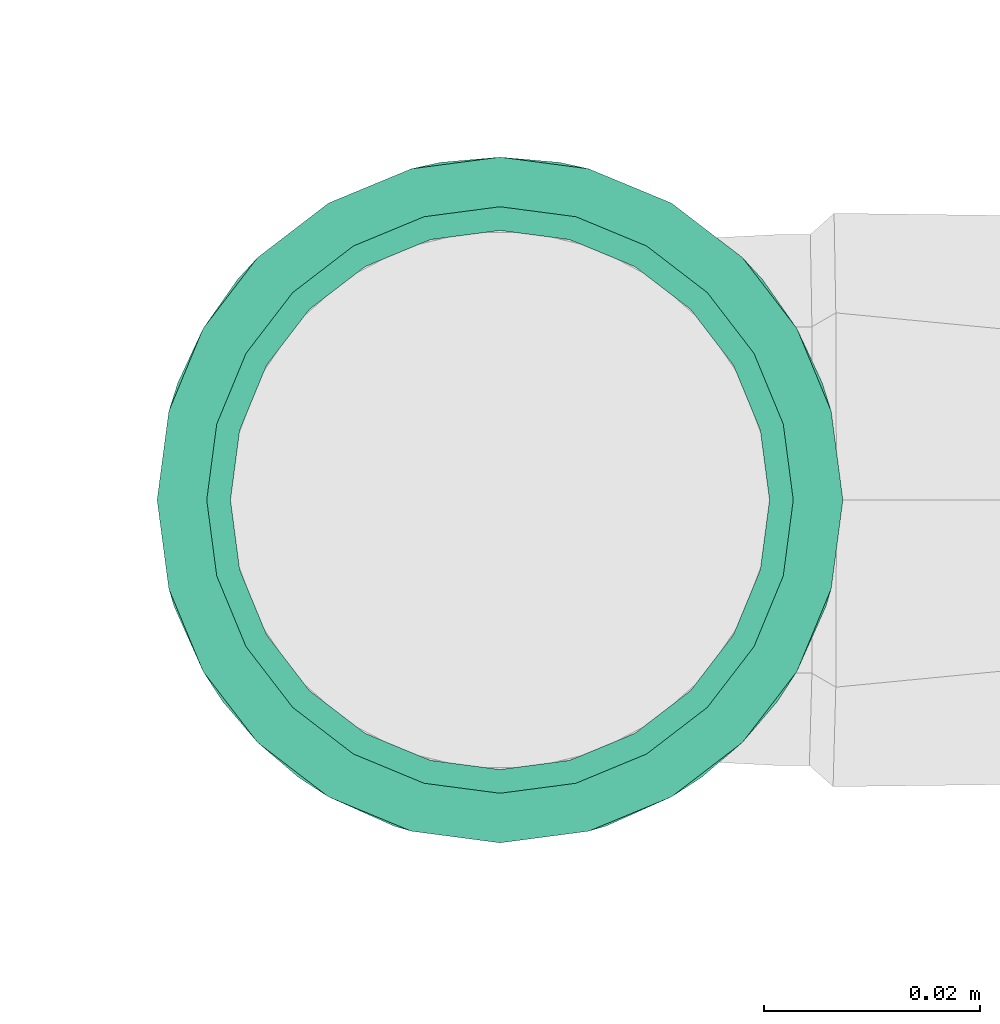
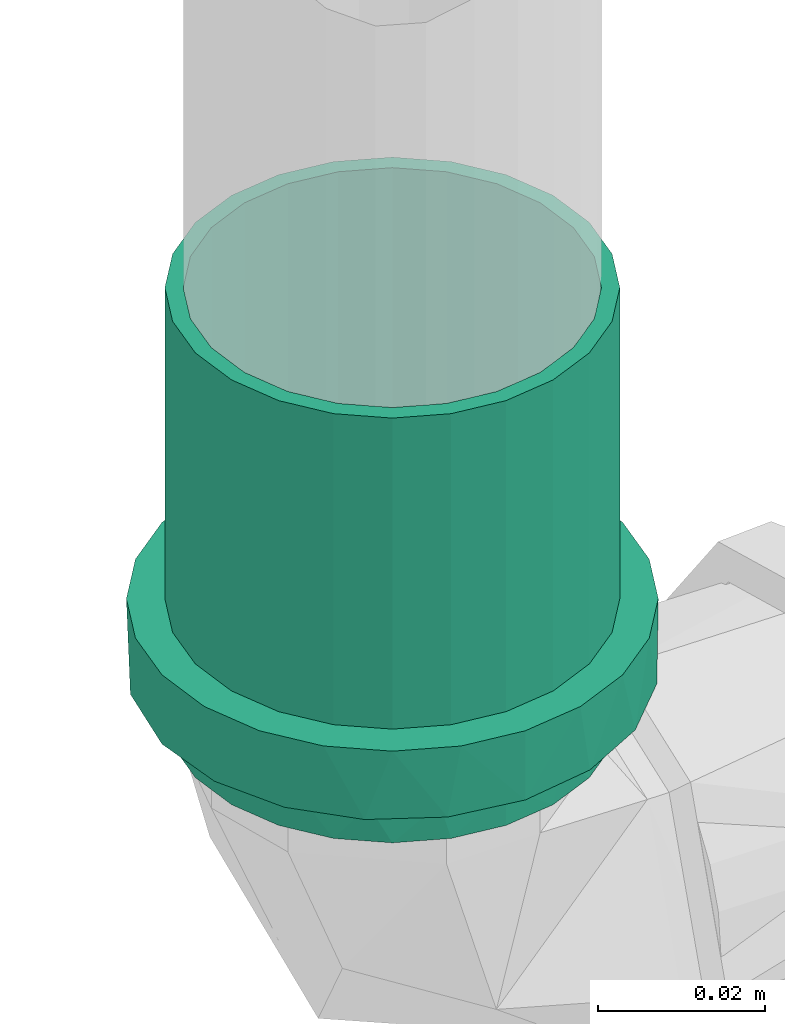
# One storey, part 203 of 589: 1 flow fitting.
"""IFC2X3 building model written with IfcOpenShell, lengths in millimetres."""

from ifc_helpers import new_model, entity, si_unit, converted_unit, derived_unit, direction, frame, origin, place, context, subcontext, project, spatial, faceted_brep, source, transform, mapped, material, type_object, type_shapes, element, save


model = new_model("IFC2X3")

# Units and contexts
model_context = context("Model", 3, precision=0.01, world=origin(), true_north=direction((6.123031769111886e-17, 1.0)))
body_context = subcontext(model_context, "Body", "Model", "MODEL_VIEW")
ifc_project = project(units=[si_unit("LENGTHUNIT", "METRE", prefix="MILLI"), si_unit("AREAUNIT", "SQUARE_METRE"), si_unit("VOLUMEUNIT", "CUBIC_METRE"), converted_unit("PLANEANGLEUNIT", "DEGREE", entity("IfcRatioMeasure", 0.017453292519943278), si_unit("PLANEANGLEUNIT", "RADIAN"), dimensions=[0, 0, 0, 0, 0, 0, 0]), si_unit("MASSUNIT", "GRAM", prefix="KILO"), derived_unit("MASSDENSITYUNIT", [(si_unit("MASSUNIT", "GRAM", prefix="KILO"), 1), (si_unit("LENGTHUNIT", "METRE"), -3)]), derived_unit("IONCONCENTRATIONUNIT", [(si_unit("MASSUNIT", "GRAM", prefix="KILO"), 1), (si_unit("LENGTHUNIT", "METRE"), -3)]), derived_unit("MOMENTOFINERTIAUNIT", [(si_unit("LENGTHUNIT", "METRE"), 4)]), si_unit("TIMEUNIT", "SECOND"), si_unit("FREQUENCYUNIT", "HERTZ"), si_unit("THERMODYNAMICTEMPERATUREUNIT", "DEGREE_CELSIUS"), derived_unit("THERMALTRANSMITTANCEUNIT", [(si_unit("MASSUNIT", "GRAM", prefix="KILO"), 1), (si_unit("THERMODYNAMICTEMPERATUREUNIT", "KELVIN"), -1), (si_unit("TIMEUNIT", "SECOND"), -3)]), derived_unit("THERMALCONDUCTANCEUNIT", [(si_unit("MASSUNIT", "GRAM", prefix="KILO"), 1), (si_unit("THERMODYNAMICTEMPERATUREUNIT", "KELVIN"), -1), (si_unit("TIMEUNIT", "SECOND"), -3), (si_unit("LENGTHUNIT", "METRE"), 1)]), derived_unit("VOLUMETRICFLOWRATEUNIT", [(si_unit("LENGTHUNIT", "METRE"), 3), (si_unit("TIMEUNIT", "SECOND"), -1)]), derived_unit("MASSFLOWRATEUNIT", [(si_unit("MASSUNIT", "GRAM", prefix="KILO"), 1), (si_unit("TIMEUNIT", "SECOND"), -1)]), derived_unit("ROTATIONALFREQUENCYUNIT", [(si_unit("TIMEUNIT", "SECOND"), -1)]), si_unit("ELECTRICCURRENTUNIT", "AMPERE"), si_unit("ELECTRICVOLTAGEUNIT", "VOLT"), si_unit("POWERUNIT", "WATT"), si_unit("FORCEUNIT", "NEWTON", prefix="KILO"), si_unit("ILLUMINANCEUNIT", "LUX"), si_unit("LUMINOUSFLUXUNIT", "LUMEN"), si_unit("LUMINOUSINTENSITYUNIT", "CANDELA"), derived_unit("USERDEFINED", [(si_unit("MASSUNIT", "GRAM", prefix="KILO"), -1), (si_unit("LENGTHUNIT", "METRE"), -2), (si_unit("TIMEUNIT", "SECOND"), 3), (si_unit("LUMINOUSFLUXUNIT", "LUMEN"), 1)]), derived_unit("USERDEFINED", [(si_unit("MASSUNIT", "GRAM", prefix="KILO"), 1), (si_unit("TIMEUNIT", "SECOND"), -3), (si_unit("LENGTHUNIT", "METRE"), 3), (si_unit("ELECTRICCURRENTUNIT", "AMPERE"), -2)]), derived_unit("SOUNDPOWERUNIT", [(si_unit("MASSUNIT", "GRAM", prefix="KILO"), 1), (si_unit("TIMEUNIT", "SECOND"), -3), (si_unit("LENGTHUNIT", "METRE"), 2)]), derived_unit("SOUNDPRESSUREUNIT", [(si_unit("MASSUNIT", "GRAM", prefix="KILO"), 1), (si_unit("LENGTHUNIT", "METRE"), -1), (si_unit("TIMEUNIT", "SECOND"), -2)]), derived_unit("LINEARVELOCITYUNIT", [(si_unit("LENGTHUNIT", "METRE"), 1), (si_unit("TIMEUNIT", "SECOND"), -1)]), si_unit("PRESSUREUNIT", "PASCAL"), derived_unit("USERDEFINED", [(si_unit("MASSUNIT", "GRAM", prefix="KILO"), 1), (si_unit("LENGTHUNIT", "METRE"), -2), (si_unit("TIMEUNIT", "SECOND"), -2)]), derived_unit("LINEARFORCEUNIT", [(si_unit("MASSUNIT", "GRAM", prefix="KILO"), 1), (si_unit("TIMEUNIT", "SECOND"), -2)]), derived_unit("PLANARFORCEUNIT", [(si_unit("MASSUNIT", "GRAM", prefix="KILO"), 1), (si_unit("LENGTHUNIT", "METRE"), -1), (si_unit("TIMEUNIT", "SECOND"), -2)]), derived_unit("SPECIFICHEATCAPACITYUNIT", [(si_unit("THERMODYNAMICTEMPERATUREUNIT", "KELVIN"), -1), (si_unit("LENGTHUNIT", "METRE"), 2), (si_unit("TIMEUNIT", "SECOND"), -2)]), derived_unit("HEATINGVALUEUNIT", [(si_unit("LENGTHUNIT", "METRE"), 2), (si_unit("TIMEUNIT", "SECOND"), -2)]), derived_unit("VAPORPERMEABILITYUNIT", [(si_unit("LENGTHUNIT", "METRE"), -1), (si_unit("TIMEUNIT", "SECOND"), 1)]), derived_unit("DYNAMICVISCOSITYUNIT", [(si_unit("MASSUNIT", "GRAM", prefix="KILO"), 1), (si_unit("TIMEUNIT", "SECOND"), -1), (si_unit("LENGTHUNIT", "METRE"), -1)]), derived_unit("THERMALEXPANSIONCOEFFICIENTUNIT", [(si_unit("THERMODYNAMICTEMPERATUREUNIT", "KELVIN"), -1)]), derived_unit("MODULUSOFELASTICITYUNIT", [(si_unit("MASSUNIT", "GRAM", prefix="KILO"), 1), (si_unit("LENGTHUNIT", "METRE"), -1), (si_unit("TIMEUNIT", "SECOND"), -2)]), derived_unit("ISOTHERMALMOISTURECAPACITYUNIT", [(si_unit("LENGTHUNIT", "METRE"), 3), (si_unit("MASSUNIT", "GRAM", prefix="KILO"), -1)]), derived_unit("MOISTUREDIFFUSIVITYUNIT", [(si_unit("TIMEUNIT", "SECOND"), -1), (si_unit("LENGTHUNIT", "METRE"), 2)])], contexts=[model_context])

# Site, building, storey
site_placement = place(None, origin())
site = spatial("IfcSite", under=ifc_project, at=site_placement, Name="Default", CompositionType="ELEMENT")
building_placement = place(site_placement, origin())
building = spatial("IfcBuilding", under=site, at=building_placement, CompositionType="ELEMENT")
storey_placement = place(building_placement, frame((0.0, 0.0, 100.0)))
storey = spatial("IfcBuildingStorey", under=building, at=storey_placement, Name="TÉRREO", CompositionType="ELEMENT", Elevation=100.0)

# Flow fitting
ifc_material = material(Name="PVC Série Normal")
pipe_fitting_type = type_object("IfcPipeFittingType", Name="PVC Esgoto_Luva Simples para Conexão_Rodrigo MEP:Standard", PredefinedType="NOTDEFINED", material=ifc_material)
shared_shape = source(origin(), body_context, "Body", "Brep", [
    faceted_brep([(16.599999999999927, -13.599999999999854, -23.555890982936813), (16.599999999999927, -22.485995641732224, -22.485995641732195), (16.599999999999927, -15.900000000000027, -27.53960784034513), (16.599999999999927, -19.233304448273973, -19.233304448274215), (16.599999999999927, -7.039878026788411, -26.273182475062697), (16.599999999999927, -27.539607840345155, -15.899999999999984), (16.599999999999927, -23.55589098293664, -13.600000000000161), (16.599999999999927, -26.273182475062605, -7.03987802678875), (16.599999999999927, -30.716441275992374, -8.230445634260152), (16.599999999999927, -27.2, 0.0), (16.599999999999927, -31.8, 0.0), (16.599999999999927, -26.273182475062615, 7.0398780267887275), (16.599999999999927, -30.71644127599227, 8.23044563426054), (16.599999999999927, -23.555890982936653, 13.60000000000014), (16.599999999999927, -27.539607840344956, 15.900000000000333), (16.599999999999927, -19.233304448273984, 19.2333044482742), (16.599999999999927, -22.485995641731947, 22.48599564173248), (16.599999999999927, -13.599999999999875, 23.555890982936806), (16.599999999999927, -15.899999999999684, 27.53960784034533), (16.599999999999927, -7.039878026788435, 26.27318247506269), (16.599999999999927, -8.230445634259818, 30.716441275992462), (16.599999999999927, 0.0, 27.2), (16.599999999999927, 0.0, 31.8), (16.599999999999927, 7.039878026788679, 26.273182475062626), (16.599999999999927, 8.230445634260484, 30.716441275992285), (16.599999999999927, 13.600000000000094, 23.555890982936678), (16.599999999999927, 15.900000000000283, 27.53960784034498), (16.599999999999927, 19.23330444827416, 19.233304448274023), (16.599999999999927, 22.485995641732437, 22.48599564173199), (16.599999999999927, 23.55589098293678, 13.59999999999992), (16.599999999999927, 27.539607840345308, 15.899999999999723), (16.599999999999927, 30.71644127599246, 8.230445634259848), (16.599999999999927, 26.273182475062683, 7.039878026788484), (16.599999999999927, 31.8, 0.0), (16.599999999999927, 27.2, 0.0), (16.599999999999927, 30.71644127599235, -8.23044563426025), (16.599999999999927, 26.273182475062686, -7.03987802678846), (16.599999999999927, 27.53960784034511, -15.90000000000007), (16.599999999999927, 23.55589098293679, -13.599999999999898), (16.599999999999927, 22.485995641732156, -22.485995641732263), (16.599999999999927, 19.233304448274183, -19.233304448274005), (16.599999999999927, 15.899999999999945, -27.53960784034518), (16.599999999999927, 13.600000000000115, -23.555890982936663), (16.599999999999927, 8.230445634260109, -30.716441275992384), (16.599999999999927, 7.039878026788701, -26.273182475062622), (16.599999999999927, 0.0, -31.8), (16.599999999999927, 0.0, -27.2), (16.599999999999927, -8.2304456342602, -30.71644127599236), (6.5000000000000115, 31.8, 0.0), (6.500000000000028, 30.243828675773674, 9.826028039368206), (6.500000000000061, 18.6933889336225, 25.72541953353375), (6.500000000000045, 25.727620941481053, 18.69035903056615), (6.500000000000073, 9.829589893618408, 30.24267122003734), (6.50000000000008, 0.0037451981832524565, 31.799999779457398), (6.5000000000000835, -9.822466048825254, 30.244985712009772), (6.500000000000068, -25.723217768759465, 18.696418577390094), (6.50000000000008, -18.687328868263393, 25.729821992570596), (6.50000000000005, -30.24167131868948, 9.832665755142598), (6.5000000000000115, -31.8, 0.0), (6.499999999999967, -24.364200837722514, -20.435892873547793), (6.499999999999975, -27.12442527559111, -15.652735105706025), (6.499999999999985, -29.884649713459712, -10.869577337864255), (6.499999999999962, -20.134403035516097, -23.986420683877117), (6.4999999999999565, -15.904605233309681, -27.53694849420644), (6.499999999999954, -10.715490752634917, -29.42653259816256), (6.499999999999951, -5.526376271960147, -31.31611670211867), (6.499999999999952, -0.003927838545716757, -31.316809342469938), (6.499999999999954, 5.518520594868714, -31.317501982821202), (6.499999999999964, 15.897697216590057, -27.54093722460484), (6.499999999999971, 20.128385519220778, -23.99147055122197), (6.499999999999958, 10.70810890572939, -29.42921960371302), (6.499999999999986, 27.12049800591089, -15.659538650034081), (6.499999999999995, 29.881922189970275, -10.877073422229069), (6.499999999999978, 24.359073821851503, -20.442003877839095), (6.499999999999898, 30.69617385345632, -6.259599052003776), (6.500000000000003, 30.84096109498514, -5.438536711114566), (62.0, -12.499999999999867, -21.650635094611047), (62.0, -19.233304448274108, -19.23330444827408), (62.0, -13.600000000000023, -23.55589098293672), (62.0, -6.470476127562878, -24.14814565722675), (62.0, -17.677669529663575, -17.677669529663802), (62.0, -23.55589098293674, -13.599999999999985), (62.0, -21.65063509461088, -12.50000000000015), (62.0, -24.148145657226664, -6.470476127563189), (62.0, -26.27318247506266, -7.039878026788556), (62.0, -25.0, 0.0), (62.0, -27.2, 0.0), (62.0, -24.148145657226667, 6.4704761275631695), (62.0, -26.273182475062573, 7.03987802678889), (62.0, -21.650635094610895, 12.500000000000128), (62.0, -23.555890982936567, 13.600000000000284), (62.0, -17.67766952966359, 17.67766952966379), (62.0, -19.233304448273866, 19.233304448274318), (62.0, -12.499999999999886, 21.650635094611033), (62.0, -13.59999999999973, 23.55589098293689), (62.0, -6.4704761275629, 24.14814565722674), (62.0, -7.039878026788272, 26.273182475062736), (62.0, 0.0, 25.0), (62.0, 0.0, 27.2), (62.0, 6.470476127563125, 24.148145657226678), (62.0, 7.039878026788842, 26.273182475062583), (62.0, 12.500000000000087, 21.650635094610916), (62.0, 13.600000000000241, 23.555890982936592), (62.0, 17.677669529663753, 17.677669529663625), (62.0, 19.233304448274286, 19.2333044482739), (62.0, 21.65063509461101, 12.499999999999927), (62.0, 23.555890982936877, 13.599999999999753), (62.0, 26.27318247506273, 7.039878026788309), (62.0, 24.14814565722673, 6.470476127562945), (62.0, 27.2, 0.0), (62.0, 25.0, 0.0), (62.0, 26.27318247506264, -7.0398780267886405), (62.0, 24.148145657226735, -6.470476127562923), (62.0, 23.5558909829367, -13.600000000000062), (62.0, 21.650635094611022, -12.499999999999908), (62.0, 19.233304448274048, -19.233304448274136), (62.0, 17.67766952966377, -17.677669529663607), (62.0, 13.599999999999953, -23.555890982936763), (62.0, 12.500000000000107, -21.650635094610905), (62.0, 7.039878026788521, -26.27318247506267), (62.0, 6.470476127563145, -24.148145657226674), (62.0, 0.0, -27.2), (62.0, 0.0, -25.0), (62.0, -7.039878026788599, -26.273182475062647), (0.0, -13.600000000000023, -23.55589098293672), (0.0, -19.233304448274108, -19.23330444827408), (0.0, -12.499999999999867, -21.650635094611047), (0.0, -6.470476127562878, -24.14814565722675), (0.0, -7.039878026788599, -26.273182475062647), (0.0, -17.677669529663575, -17.677669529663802), (0.0, -23.55589098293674, -13.599999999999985), (0.0, -21.65063509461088, -12.50000000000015), (0.0, -24.148145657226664, -6.470476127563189), (0.0, -26.27318247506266, -7.039878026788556), (0.0, -25.0, 0.0), (0.0, -27.2, 0.0), (0.0, -24.148145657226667, 6.4704761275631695), (0.0, -26.273182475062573, 7.03987802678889), (0.0, -21.650635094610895, 12.500000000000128), (0.0, -23.555890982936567, 13.600000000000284), (0.0, -17.67766952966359, 17.67766952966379), (0.0, -19.233304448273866, 19.233304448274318), (0.0, -12.499999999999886, 21.650635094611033), (0.0, -13.59999999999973, 23.55589098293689), (0.0, -6.4704761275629, 24.14814565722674), (0.0, -7.039878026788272, 26.273182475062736), (0.0, 0.0, 25.0), (0.0, 0.0, 27.2), (0.0, 6.470476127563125, 24.148145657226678), (0.0, 7.039878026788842, 26.273182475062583), (0.0, 12.500000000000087, 21.650635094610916), (0.0, 13.600000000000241, 23.555890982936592), (0.0, 17.677669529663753, 17.677669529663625), (0.0, 19.233304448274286, 19.2333044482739), (0.0, 21.65063509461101, 12.499999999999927), (0.0, 23.555890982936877, 13.599999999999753), (0.0, 26.27318247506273, 7.039878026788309), (0.0, 24.14814565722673, 6.470476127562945), (0.0, 27.2, 0.0), (0.0, 25.0, 0.0), (0.0, 26.27318247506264, -7.0398780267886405), (0.0, 24.148145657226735, -6.470476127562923), (0.0, 23.5558909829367, -13.600000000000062), (0.0, 21.650635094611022, -12.499999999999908), (0.0, 19.233304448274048, -19.233304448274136), (0.0, 17.67766952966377, -17.677669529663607), (0.0, 13.599999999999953, -23.555890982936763), (0.0, 12.500000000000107, -21.650635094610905), (0.0, 7.039878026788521, -26.27318247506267), (0.0, 6.470476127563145, -24.148145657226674), (0.0, 0.0, -27.2), (0.0, 0.0, -25.0), (5.299999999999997, 27.2, 0.0), (5.300000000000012, 25.868346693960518, 8.406464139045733), (5.300000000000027, 22.003776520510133, 15.989803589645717), (5.30000000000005, 8.400454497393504, 25.870298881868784), (5.300000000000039, 15.9846915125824, 22.007490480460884), (5.300000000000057, -0.00631876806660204, 27.199999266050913), (5.30000000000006, -8.412473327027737, 25.866393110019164), (5.3000000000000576, -15.99491480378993, 22.00006137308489), (5.300000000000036, -25.8722496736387, 8.394444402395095), (5.30000000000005, -22.011203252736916, 15.97957857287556), (5.299999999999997, -27.2, 0.0), (5.299999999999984, -25.56171296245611, -9.29724854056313), (5.2999999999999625, -17.22187932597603, -20.516686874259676), (5.299999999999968, -20.839819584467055, -17.47975742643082), (5.299999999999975, -23.200766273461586, -13.388502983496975), (5.2999999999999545, -9.165451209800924, -25.169864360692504), (5.299999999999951, -4.726963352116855, -26.78611239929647), (5.299999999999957, -13.603939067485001, -23.553616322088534), (5.29999999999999, 26.379689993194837, -4.651830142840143), (5.299999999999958, 13.5980303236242, -23.55702806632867), (5.299999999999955, 9.159137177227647, -25.17216267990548), (5.299999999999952, 4.720244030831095, -26.787297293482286), (5.299999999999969, 20.83543421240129, -17.484984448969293), (5.299999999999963, 17.216732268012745, -20.52100625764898), (5.299999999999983, 25.559379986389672, -9.303660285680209), (5.299999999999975, 23.197407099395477, -13.394322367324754), (5.299999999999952, -0.0033596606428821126, -26.78670484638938), (39.0, 25.0, 0.0), (39.0, -25.0, 0.0)], [[[0, 1, 2]], [[3, 1, 0]], [[4, 0, 2]], [[1, 3, 5]], [[5, 3, 6]], [[5, 6, 7]], [[8, 5, 7]], [[9, 8, 7]], [[10, 8, 9]], [[10, 9, 11]], [[12, 10, 11]], [[12, 11, 13]], [[14, 12, 13]], [[14, 13, 15]], [[15, 16, 14]], [[15, 17, 16]], [[17, 18, 16]], [[19, 18, 17]], [[18, 19, 20]], [[21, 20, 19]], [[22, 20, 21]], [[23, 22, 21]], [[24, 22, 23]], [[25, 24, 23]], [[24, 25, 26]], [[25, 27, 26]], [[28, 26, 27]], [[28, 27, 29]], [[28, 29, 30]], [[30, 29, 31]], [[31, 29, 32]], [[33, 31, 32]], [[33, 32, 34]], [[33, 34, 35]], [[34, 36, 35]], [[37, 35, 36]], [[37, 36, 38]], [[39, 37, 38]], [[40, 39, 38]], [[40, 41, 39]], [[42, 41, 40]], [[43, 41, 42]], [[42, 44, 43]], [[43, 44, 45]], [[44, 46, 45]], [[46, 4, 47]], [[45, 46, 47]], [[2, 47, 4]], [[33, 48, 31]], [[31, 49, 30]], [[26, 28, 50]], [[51, 28, 30]], [[24, 26, 52]], [[49, 51, 30]], [[31, 48, 49]], [[50, 52, 26]], [[28, 51, 50]], [[52, 53, 24]], [[53, 22, 24]], [[20, 53, 54]], [[20, 54, 18]], [[14, 16, 55]], [[56, 16, 18]], [[12, 14, 57]], [[56, 55, 16]], [[18, 54, 56]], [[57, 58, 12]], [[14, 55, 57]], [[58, 10, 12]], [[22, 53, 20]], [[8, 10, 58]], [[59, 1, 5]], [[60, 59, 5, 61]], [[2, 62, 63]], [[8, 58, 61]], [[2, 63, 64]], [[47, 2, 64]], [[64, 65, 47]], [[62, 1, 59]], [[66, 67, 45, 65]], [[41, 68, 69]], [[1, 62, 2]], [[39, 41, 69]], [[8, 61, 5]], [[43, 45, 67]], [[68, 41, 70]], [[71, 72, 37, 73]], [[43, 70, 41]], [[72, 35, 37]], [[69, 73, 39]], [[70, 43, 67]], [[47, 65, 45]], [[39, 73, 37]], [[35, 72, 74, 75]], [[33, 75, 48]], [[35, 75, 33]], [[76, 77, 78]], [[79, 76, 78]], [[80, 77, 76]], [[77, 80, 81]], [[82, 81, 80]], [[83, 81, 82]], [[81, 83, 84]], [[83, 85, 84]], [[86, 84, 85]], [[86, 85, 87]], [[87, 88, 86]], [[89, 88, 87]], [[88, 89, 90]], [[91, 90, 89]], [[92, 90, 91]], [[92, 91, 93]], [[93, 94, 92]], [[95, 94, 93]], [[94, 95, 96]], [[97, 96, 95]], [[98, 96, 97]], [[99, 98, 97]], [[100, 98, 99]], [[101, 100, 99]], [[100, 101, 102]], [[101, 103, 102]], [[104, 102, 103]], [[103, 105, 104]], [[104, 105, 106]], [[107, 106, 105]], [[105, 108, 107]], [[107, 108, 109]], [[108, 110, 109]], [[109, 110, 111]], [[110, 112, 111]], [[113, 111, 112]], [[112, 114, 113]], [[115, 113, 114]], [[116, 115, 114]], [[116, 117, 115]], [[118, 117, 116]], [[119, 117, 118]], [[118, 120, 119]], [[119, 120, 121]], [[120, 122, 121]], [[122, 79, 123]], [[121, 122, 123]], [[78, 123, 79]], [[124, 125, 126]], [[124, 126, 127]], [[127, 128, 124]], [[126, 125, 129]], [[130, 129, 125]], [[129, 130, 131]], [[131, 130, 132]], [[133, 132, 130]], [[133, 134, 132]], [[134, 133, 135]], [[136, 134, 135]], [[135, 137, 136]], [[136, 137, 138]], [[139, 138, 137]], [[138, 139, 140]], [[140, 139, 141]], [[142, 140, 141]], [[141, 143, 142]], [[142, 143, 144]], [[145, 144, 143]], [[144, 145, 146]], [[146, 145, 147]], [[146, 147, 148]], [[148, 147, 149]], [[148, 149, 150]], [[151, 150, 149]], [[151, 152, 150]], [[152, 151, 153]], [[153, 154, 152]], [[155, 154, 153]], [[154, 155, 156]], [[156, 157, 154]], [[158, 157, 156]], [[158, 159, 157]], [[160, 159, 158]], [[160, 161, 159]], [[161, 160, 162]], [[162, 163, 161]], [[163, 162, 164]], [[163, 164, 165]], [[164, 166, 165]], [[165, 166, 167]], [[167, 166, 168]], [[168, 169, 167]], [[170, 169, 168]], [[128, 171, 170]], [[170, 171, 169]], [[128, 127, 171]], [[172, 156, 173]], [[173, 155, 174]], [[175, 176, 151]], [[175, 149, 177]], [[153, 176, 174]], [[177, 149, 147]], [[156, 155, 173]], [[172, 158, 156]], [[32, 107, 109, 34]], [[153, 151, 176]], [[174, 155, 153]], [[151, 149, 175]], [[177, 145, 178]], [[178, 143, 179]], [[180, 181, 139]], [[141, 181, 179]], [[182, 180, 137]], [[143, 141, 179]], [[178, 145, 143]], [[139, 137, 180]], [[181, 141, 139]], [[137, 135, 182]], [[86, 88, 11, 9]], [[147, 145, 177]], [[183, 182, 133]], [[184, 185, 125]], [[186, 183, 130, 185]], [[187, 128, 188]], [[183, 133, 130]], [[182, 135, 133]], [[86, 9, 7, 84]], [[128, 187, 124]], [[124, 189, 184]], [[125, 185, 130]], [[160, 158, 190]], [[166, 191, 192]], [[187, 189, 124]], [[168, 166, 192]], [[188, 128, 170]], [[125, 124, 184]], [[192, 193, 168]], [[194, 195, 164]], [[190, 196, 160]], [[197, 194, 162, 196]], [[160, 196, 162]], [[164, 195, 166]], [[198, 188, 170, 193]], [[168, 193, 170]], [[194, 164, 162]], [[166, 195, 191]], [[158, 172, 190]], [[199, 110, 108, 157, 159]], [[103, 101, 150, 152]], [[152, 154, 105, 103]], [[154, 157, 108, 105]], [[148, 150, 101, 99]], [[99, 97, 146, 148]], [[144, 146, 97, 95]], [[93, 142, 144, 95]], [[89, 87, 136, 138]], [[138, 140, 91, 89]], [[140, 142, 93, 91]], [[200, 134, 136, 87, 85]], [[85, 83, 132, 134, 200]], [[80, 76, 126, 129]], [[132, 83, 82, 131]], [[80, 129, 131, 82]], [[127, 126, 76, 79]], [[79, 122, 171, 127]], [[169, 171, 122, 120]], [[118, 167, 169, 120]], [[114, 112, 161, 163]], [[163, 165, 116, 114]], [[165, 167, 118, 116]], [[199, 159, 161, 112, 110]], [[190, 172, 48, 75, 74, 72, 196]], [[197, 196, 72, 71, 73, 194]], [[195, 194, 73, 69, 68, 191]], [[68, 70, 67, 193, 192, 191]], [[66, 65, 188, 198, 193, 67]], [[63, 189, 187, 188, 65, 64]], [[58, 182, 183, 61]], [[59, 60, 61, 183, 186, 185]], [[63, 62, 59, 185, 184, 189]], [[57, 181, 180]], [[54, 177, 178]], [[56, 178, 179]], [[55, 179, 181]], [[58, 180, 182]], [[58, 57, 180]], [[181, 57, 55]], [[55, 56, 179]], [[56, 54, 178]], [[54, 53, 177]], [[52, 176, 175]], [[49, 172, 173]], [[51, 173, 174]], [[50, 174, 176]], [[52, 50, 176]], [[175, 53, 52]], [[50, 51, 174]], [[173, 51, 49]], [[172, 49, 48]], [[177, 53, 175]], [[106, 107, 32, 29]], [[102, 104, 27, 25]], [[27, 104, 106, 29]], [[100, 102, 25, 23]], [[23, 21, 98, 100]], [[94, 96, 19, 17]], [[94, 17, 15, 92]], [[88, 90, 13, 11]], [[13, 90, 92, 15]], [[98, 21, 19, 96]], [[84, 7, 6, 81]], [[0, 4, 123, 78]], [[77, 81, 6, 3]], [[77, 3, 0, 78]], [[4, 46, 121, 123]], [[117, 119, 44, 42]], [[117, 42, 40, 115]], [[111, 113, 38, 36]], [[38, 113, 115, 40]], [[109, 111, 36, 34]], [[121, 46, 44, 119]]]),
])
type_shapes(pipe_fitting_type, [shared_shape])
flow_fitting_placement = place(storey_placement, frame((7346.407229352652, 850.8590199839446, 129.3813861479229), z_axis=(0.0, -1.0, 0.0), x_axis=(0.0, 0.0, 1.0)))
element("IfcFlowFitting", 1, at=flow_fitting_placement, inside=storey, type_object=pipe_fitting_type, material=ifc_material, Name="PVC Esgoto_Luva Simples para Conexão_Rodrigo MEP:Standard", ObjectType="PVC Esgoto_Luva Simples para Conexão_Rodrigo MEP:Standard", context=body_context, shape_type="MappedRepresentation", body=[
    mapped(shared_shape, transform((0.0, 0.0, 0.0), scale=1.0)),
])

save(model, "model.ifc")
